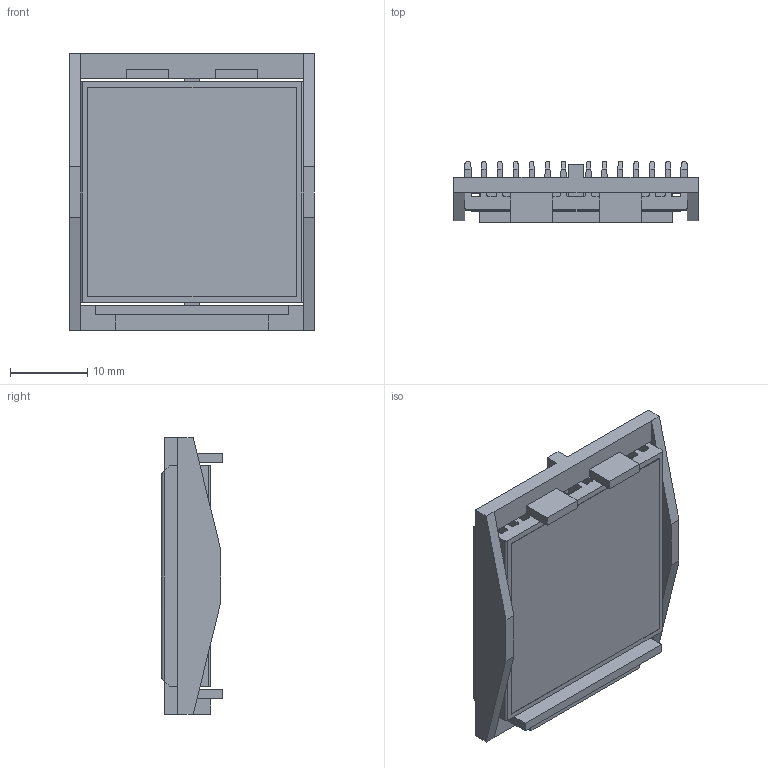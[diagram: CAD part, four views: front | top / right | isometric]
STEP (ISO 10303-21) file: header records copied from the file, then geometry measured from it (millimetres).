
FILE_DESCRIPTION (( 'STEP AP214' ), '1' );
FILE_NAME ('INL29001-6-1.7BU.STEP', '2023-02-21T22:44:10', ( '' ), ( '' ), 'SwSTEP 2.0', 'SolidWorks 2020', '' );
FILE_SCHEMA (( 'AUTOMOTIVE_DESIGN' ));
Length unit declared in the file: millimetre
Products named in the file (1): INL29001-6-1.7BU
Bounding box: 31.7 x 7.9 x 35.8 mm (x, y, z)
Volume: 3954.2 mm3; surface area: 8752.9 mm2
Topology: 3 solids, 3 shells, 168 faces, 488 edges, 324 vertices
Faces by surface type: plane 126, cylinder 42
Entity records: 7380 total; most frequent: CARTESIAN_POINT 1065, ORIENTED_EDGE 976, DIRECTION 854, EDGE_CURVE 488, VECTOR 404, LINE 404, VERTEX_POINT 324, AXIS2_PLACEMENT_3D 225
